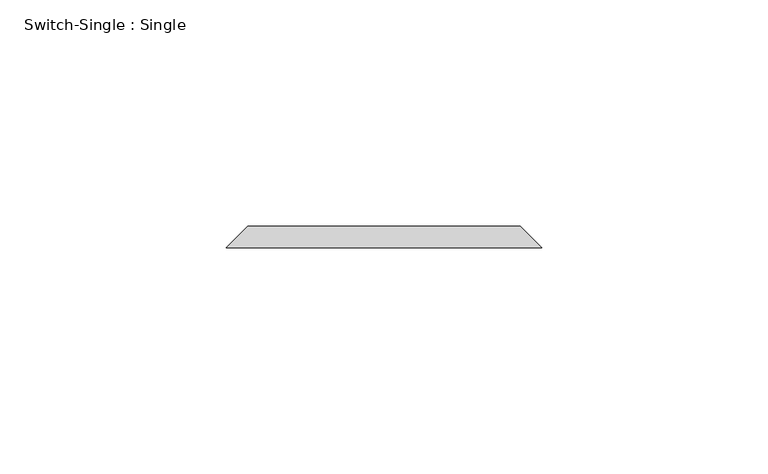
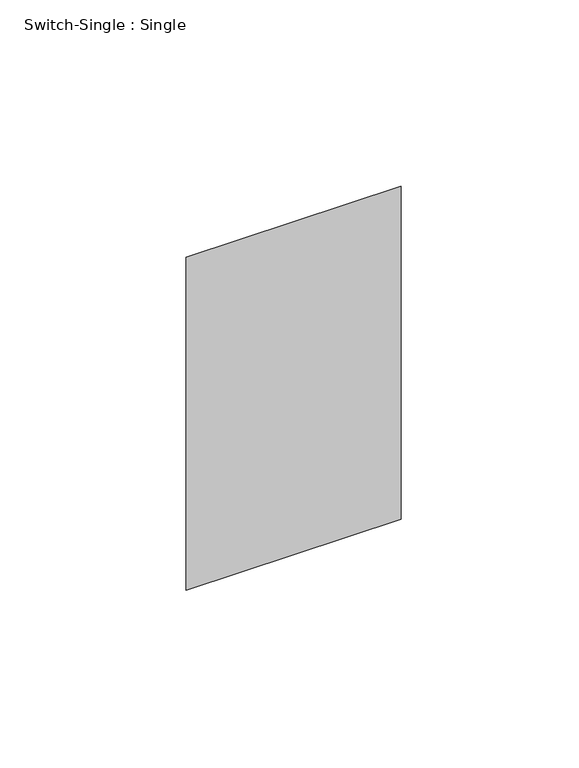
"""IFC4 building model written with IfcOpenShell, lengths in millimetres: proxy geometry, Switch-Single : Single."""

import ifcopenshell
import ifcopenshell.guid

model = None  # the IFC model being written
_history = None  # IfcOwnerHistory: only IFC2X3 demands one
_inside = {}  # id of a spatial element -> (the spatial element, [elements in it])
_under = {}  # id of a project, library or spatial element -> (it, [spatial elements below it])
_declared = {}  # id of a project -> (the project, [libraries it declares])
_typed = {}  # id of a type object -> (the type object, [elements of that type])
_made_of = {}  # id of a material, layer set ... -> (it, [elements and type objects made of it])


def new_model(schema):
    """Start an empty IFC model of exactly this schema.

    Asked for "IFC4X3", IfcOpenShell would pick the latest addendum, in which some entities
    have other attributes; the version numbers below select the first issue.
    IFC2X3 requires an IfcOwnerHistory on every rooted entity: one is made here for all.
    """
    global model, _history
    if schema == "IFC4X3":
        model = ifcopenshell.file(schema_version=(4, 3, 0, 0))
    else:
        model = ifcopenshell.file(schema=schema)
    _inside.clear()
    _under.clear()
    _declared.clear()
    _typed.clear()
    _made_of.clear()
    _history = None
    if model.schema == "IFC2X3":
        org = make("IfcOrganization", Name="unknown")
        user = make(
            "IfcPersonAndOrganization",
            ThePerson=make("IfcPerson", FamilyName="unknown"),
            TheOrganization=org,
        )
        app = make(
            "IfcApplication",
            ApplicationDeveloper=org,
            Version="unknown",
            ApplicationFullName="unknown",
            ApplicationIdentifier="unknown",
        )
        _history = make(
            "IfcOwnerHistory",
            OwningUser=user,
            OwningApplication=app,
            ChangeAction="ADDED",
            CreationDate=0,
        )
    return model


def make(cls, **values):
    """One entity of the class cls with the attributes given. An attribute that is None is left unset."""
    return model.create_entity(
        cls, **{name: value for name, value in values.items() if value is not None}
    )


def rooted(cls, **values):
    """An entity with a GlobalId (a new one), such as an element, a storey or a relation."""
    return make(cls, GlobalId=ifcopenshell.guid.new(), OwnerHistory=_history, **values)


def si_unit(unit_type, name, prefix=None):
    """IfcSIUnit, for example si_unit("LENGTHUNIT", "METRE", prefix="MILLI")."""
    return make("IfcSIUnit", UnitType=unit_type, Prefix=prefix, Name=name)


def assignment(units):
    """IfcUnitAssignment: the units of a project."""
    return None if units is None else make("IfcUnitAssignment", Units=units)


def point(xyz):
    """IfcCartesianPoint."""
    return None if xyz is None else make("IfcCartesianPoint", Coordinates=xyz)


def direction(xyz):
    """IfcDirection."""
    return None if xyz is None else make("IfcDirection", DirectionRatios=xyz)


def frame(location, z_axis=None, x_axis=None):
    """IfcAxis2Placement3D, a coordinate frame: its origin and axes. An axis left out is left unset."""
    return make(
        "IfcAxis2Placement3D",
        Location=point(location),
        Axis=direction(z_axis),
        RefDirection=direction(x_axis),
    )


def origin():
    """The frame at (0, 0, 0) with its axes left unset."""
    return frame((0.0, 0.0, 0.0))


def place(relative_to, where):
    """IfcLocalPlacement: puts the frame where relative to a parent placement (None: the world)."""
    return make(
        "IfcLocalPlacement", PlacementRelTo=relative_to, RelativePlacement=where
    )


def context(
    kind, dimensions, precision=None, world=None, true_north=None, identifier=None
):
    """IfcGeometricRepresentationContext, for example the 3D "Model" context."""
    return make(
        "IfcGeometricRepresentationContext",
        ContextIdentifier=identifier,
        ContextType=kind,
        CoordinateSpaceDimension=dimensions,
        Precision=precision,
        WorldCoordinateSystem=world,
        TrueNorth=true_north,
    )


def project(units=None, contexts=None):
    """IfcProject with its units and contexts."""
    return rooted(
        "IfcProject",
        Name="project",
        RepresentationContexts=contexts,
        UnitsInContext=assignment(units),
    )


def spatial(cls, under=None, at=None, **own):
    """A site, building, storey or space (cls), placed at a placement, below another one or the project."""
    s = rooted(cls, ObjectPlacement=at, **own)
    if under is not None:
        _under.setdefault(under.id(), (under, []))[1].append(s)
    return s


def faces_of(points, faces, orient=None, outer=None):
    """IfcFace entities. A face is a list of loops; a loop is a list of indices into points, from 0.

    orient and outer hold one flag for each loop. By default every Orientation is true, the
    first loop of a face is its IfcFaceOuterBound and the others are IfcFaceBound.
    """
    made = []
    for i, loops in enumerate(faces):
        bounds = []
        for j, loop in enumerate(loops):
            is_outer = j == 0 if outer is None else outer[i][j]
            bounds.append(
                make(
                    "IfcFaceOuterBound" if is_outer else "IfcFaceBound",
                    Bound=make("IfcPolyLoop", Polygon=[points[k] for k in loop]),
                    Orientation=True if orient is None else orient[i][j],
                )
            )
        made.append(make("IfcFace", Bounds=bounds))
    return made


def faceted_brep(points, faces, orient=None, outer=None, voids=None):
    """IfcFacetedBrep: a solid bounded by flat faces; with voids (closed shells), ...WithVoids."""
    shared = [point(p) for p in points]
    hull = make("IfcClosedShell", CfsFaces=faces_of(shared, faces, orient, outer))
    if voids is None:
        return make("IfcFacetedBrep", Outer=hull)
    return make(
        "IfcFacetedBrepWithVoids",
        Outer=hull,
        Voids=[
            make(cls, CfsFaces=faces_of(shared, fs, o, b)) for cls, fs, o, b in voids
        ],
    )


def shape(context_of_items, identifier, shape_type, items):
    """IfcShapeRepresentation: the items that make up one representation, for example the "Body"."""
    return make(
        "IfcShapeRepresentation",
        ContextOfItems=context_of_items,
        RepresentationIdentifier=identifier,
        RepresentationType=shape_type,
        Items=items,
    )


def source(mapping_origin, context_of_items, identifier, shape_type, items):
    """IfcRepresentationMap: a shape defined once, which mapped items show again and again."""
    return make(
        "IfcRepresentationMap",
        MappingOrigin=mapping_origin,
        MappedRepresentation=shape(context_of_items, identifier, shape_type, items),
    )


def transform(
    local_origin,
    x_axis=None,
    y_axis=None,
    z_axis=None,
    scale=None,
    scale2=None,
    scale3=None,
    uniform=True,
):
    """IfcCartesianTransformationOperator3D, or its non-uniform kind. x_axis, y_axis, z_axis: its Axis1, 2, 3."""
    if uniform:
        return make(
            "IfcCartesianTransformationOperator3D",
            Axis1=direction(x_axis),
            Axis2=direction(y_axis),
            LocalOrigin=point(local_origin),
            Scale=scale,
            Axis3=direction(z_axis),
        )
    return make(
        "IfcCartesianTransformationOperator3DnonUniform",
        Axis1=direction(x_axis),
        Axis2=direction(y_axis),
        LocalOrigin=point(local_origin),
        Scale=scale,
        Axis3=direction(z_axis),
        Scale2=scale2,
        Scale3=scale3,
    )


def mapped(mapping_source, mapping_target):
    """IfcMappedItem: shows the shape of a source again, moved by a transform."""
    return make(
        "IfcMappedItem", MappingSource=mapping_source, MappingTarget=mapping_target
    )


def made_of(thing, what):
    """Note that an element or type object is made of a material, layer set ...; save() writes the relation."""
    if what is not None:
        _made_of.setdefault(what.id(), (what, []))[1].append(thing)
    return thing


def element(
    cls,
    number,
    at=None,
    inside=None,
    cuts=None,
    type_object=None,
    material=None,
    context=None,
    identifier="Body",
    shape_type=None,
    held_by="IfcProductDefinitionShape",
    body=None,
    shapes=None,
    **own,
):
    """One element of the class cls, such as IfcWall. Its Tag is "e" and its number.

    at: its placement. inside: the storey or other place that contains it. cuts: it is an
    opening in that element (IfcRelVoidsElement). A single representation is given by context,
    identifier, shape_type and body (its items); several are given by shapes. held_by: the class
    of the entity that holds the representations. save() writes the other relations.
    """
    e = rooted(cls, Tag="e%d" % number, ObjectPlacement=at, **own)
    if body is not None:
        shapes = [shape(context, identifier, shape_type, body)]
    if shapes is not None:
        e.Representation = make(held_by, Representations=shapes)
    if inside is not None:
        _inside.setdefault(inside.id(), (inside, []))[1].append(e)
    if cuts is not None:
        rooted(
            "IfcRelVoidsElement", RelatingBuildingElement=cuts, RelatedOpeningElement=e
        )
    if type_object is not None:
        _typed.setdefault(type_object.id(), (type_object, []))[1].append(e)
    return made_of(e, material)


def aggregate(whole, parts):
    """IfcRelAggregates: a whole, such as a stair, and the parts it consists of."""
    return rooted("IfcRelAggregates", RelatingObject=whole, RelatedObjects=parts)


def save(model, path):
    """Write the relations noted so far, then the file.

    IfcRelAggregates (storeys below a building ...), IfcRelContainedInSpatialStructure (elements
    in a storey), IfcRelDefinesByType, IfcRelAssociatesMaterial and IfcRelDeclares: one each for
    every whole, place, type object, material and project.
    """
    for whole, parts in _under.values():
        aggregate(whole, parts)
    for where, things in _inside.values():
        rooted(
            "IfcRelContainedInSpatialStructure",
            RelatedElements=things,
            RelatingStructure=where,
        )
    for kind, things in _typed.values():
        rooted("IfcRelDefinesByType", RelatedObjects=things, RelatingType=kind)
    for what, things in _made_of.values():
        rooted("IfcRelAssociatesMaterial", RelatedObjects=things, RelatingMaterial=what)
    for by, libraries in _declared.values():
        rooted("IfcRelDeclares", RelatingContext=by, RelatedDefinitions=libraries)
    model.write(path)


def switch_single_single_f7a742c7(model_context):
    return source(origin(), model_context, "Body", "Brep", [
        faceted_brep([(-30.1625, 66.675, 1271.5875), (30.1625, 66.675, 1271.5875), (30.1625, 66.675, 1166.8125), (-30.1625, 66.675, 1166.8125), (-34.925, 61.9125, 1276.35), (-34.925, 61.9125, 1162.05), (34.925, 61.9125, 1162.05), (34.925, 61.9125, 1276.35)], [[[0, 1, 2, 3]], [[4, 5, 6, 7]], [[4, 7, 1, 0]], [[7, 6, 2, 1]], [[6, 5, 3, 2]], [[5, 4, 0, 3]]]),
    ])


if __name__ == "__main__":
    model = new_model("IFC4")
    model_context = context("Model", 3, world=origin())
    ifc_project = project(units=[si_unit("LENGTHUNIT", "METRE", prefix="MILLI")], contexts=[model_context])
    site = spatial("IfcSite", under=ifc_project)
    building = spatial("IfcBuilding", under=site)
    placement = place(None, origin())
    switch_single_single_shape = switch_single_single_f7a742c7(model_context)
    element("IfcBuildingElementProxy", 1, Name="Switch-Single : Single", ObjectType="Switch-Single : Single", at=placement, inside=building, context=model_context, shape_type="MappedRepresentation", body=[
        mapped(switch_single_single_shape, transform((0.0, 0.0, 0.0), x_axis=(1.0, 0.0, 0.0), y_axis=(0.0, 1.0, 0.0), z_axis=(0.0, 0.0, 1.0))),
    ])
    save(model, "model.ifc")
